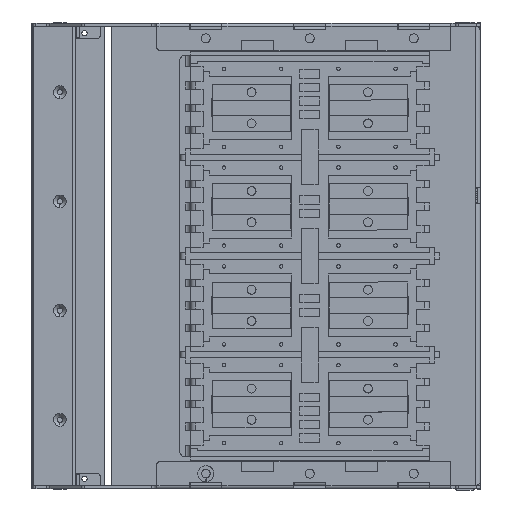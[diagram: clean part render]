
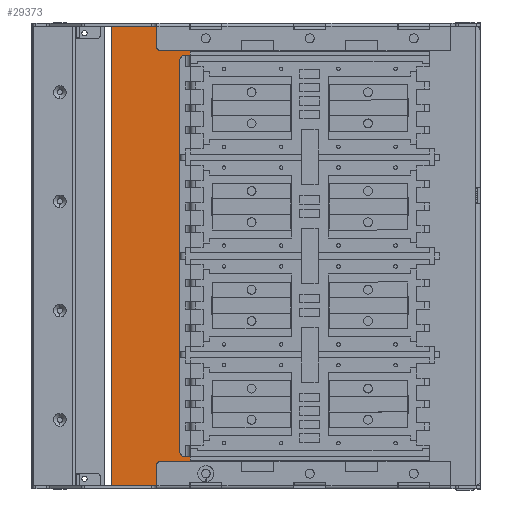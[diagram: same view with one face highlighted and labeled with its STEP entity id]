
A CAD part, left-side view. The second image highlights one B-rep face of the part: STEP entity #29373.
In plain terms, the highlighted planar face has unit normal (-1, 0, 0).
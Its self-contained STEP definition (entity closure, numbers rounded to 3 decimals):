
#975 = EDGE_CURVE ( 'NONE', #124139, #84549, #7139, .T. ) ;
#1673 = DIRECTION ( 'NONE',  ( 0., 1., 0. ) ) ;
#2815 = AXIS2_PLACEMENT_3D ( 'NONE', #145257, #105086, #1673 ) ;
#7139 = LINE ( 'NONE', #66478, #85906 ) ;
#16941 = ORIENTED_EDGE ( 'NONE', *, *, #147184, .F. ) ;
#23203 = EDGE_LOOP ( 'NONE', ( #60215, #48583, #16941, #50103 ) ) ;
#25962 = CARTESIAN_POINT ( 'NONE',  ( 294.457, 466.383, -172.412 ) ) ;
#29108 = CARTESIAN_POINT ( 'NONE',  ( 294.457, 466.383, 269.188 ) ) ;
#29373 = ADVANCED_FACE ( 'NONE', ( #162832 ), #93196, .F. ) ;
#34651 = VECTOR ( 'NONE', #90413, 1000. ) ;
#34774 = LINE ( 'NONE', #25962, #87288 ) ;
#42793 = LINE ( 'NONE', #166233, #34651 ) ;
#48583 = ORIENTED_EDGE ( 'NONE', *, *, #975, .T. ) ;
#50103 = ORIENTED_EDGE ( 'NONE', *, *, #165325, .F. ) ;
#52216 = VERTEX_POINT ( 'NONE', #107429 ) ;
#60215 = ORIENTED_EDGE ( 'NONE', *, *, #138028, .T. ) ;
#64254 = DIRECTION ( 'NONE',  ( 0., 1., 0. ) ) ;
#66478 = CARTESIAN_POINT ( 'NONE',  ( 294.457, 466.383, 269.188 ) ) ;
#68604 = VERTEX_POINT ( 'NONE', #133701 ) ;
#76882 = DIRECTION ( 'NONE',  ( 0., 1., 0. ) ) ;
#84549 = VERTEX_POINT ( 'NONE', #115256 ) ;
#85906 = VECTOR ( 'NONE', #64254, 1000. ) ;
#87288 = VECTOR ( 'NONE', #76882, 1000. ) ;
#90413 = DIRECTION ( 'NONE',  ( 0., 0., 1. ) ) ;
#93196 = PLANE ( 'NONE',  #2815 ) ;
#103593 = DIRECTION ( 'NONE',  ( 0., 0., 1. ) ) ;
#105086 = DIRECTION ( 'NONE',  ( 1., 0., 0. ) ) ;
#107429 = CARTESIAN_POINT ( 'NONE',  ( 294.457, 542.113, -172.412 ) ) ;
#115256 = CARTESIAN_POINT ( 'NONE',  ( 294.457, 542.113, 269.188 ) ) ;
#117083 = CARTESIAN_POINT ( 'NONE',  ( 294.457, 542.113, -611.533 ) ) ;
#119864 = VECTOR ( 'NONE', #103593, 1000. ) ;
#124139 = VERTEX_POINT ( 'NONE', #29108 ) ;
#133701 = CARTESIAN_POINT ( 'NONE',  ( 294.457, 466.383, -172.412 ) ) ;
#138028 = EDGE_CURVE ( 'NONE', #68604, #124139, #42793, .T. ) ;
#145257 = CARTESIAN_POINT ( 'NONE',  ( 294.457, 466.383, -611.533 ) ) ;
#147184 = EDGE_CURVE ( 'NONE', #52216, #84549, #154419, .T. ) ;
#154419 = LINE ( 'NONE', #117083, #119864 ) ;
#162832 = FACE_OUTER_BOUND ( 'NONE', #23203, .T. ) ;
#165325 = EDGE_CURVE ( 'NONE', #68604, #52216, #34774, .T. ) ;
#166233 = CARTESIAN_POINT ( 'NONE',  ( 294.457, 466.383, -611.533 ) ) ;
